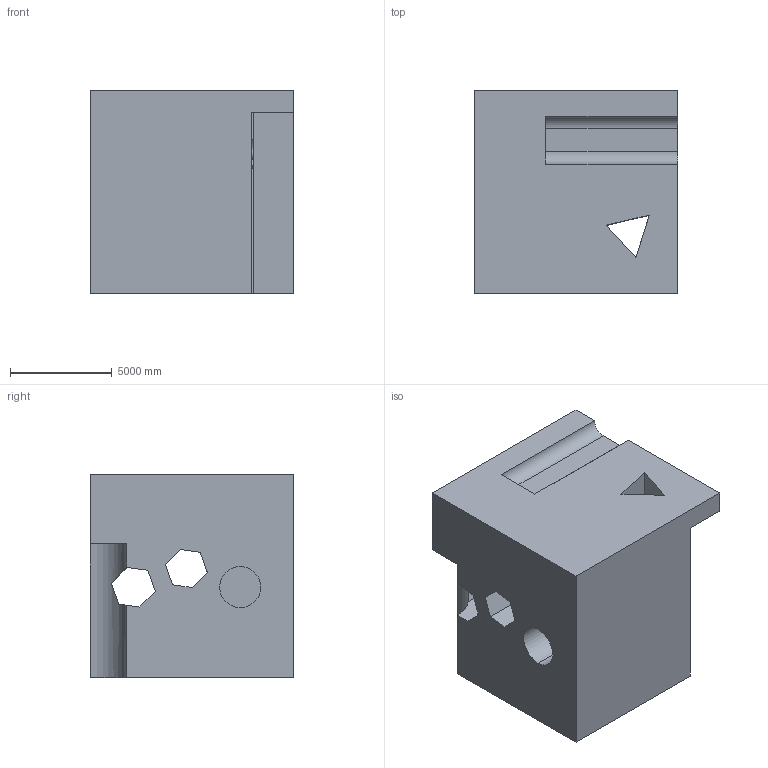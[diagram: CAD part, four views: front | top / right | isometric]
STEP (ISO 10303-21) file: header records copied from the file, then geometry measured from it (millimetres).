
FILE_DESCRIPTION (( 'STEP AP203' ), '1' );
FILE_NAME ('354.STEP', '2022-09-07T15:44:34', ( 'user' ), ( '' ), 'SwSTEP 2.0', 'SolidWorks 2021', '' );
FILE_SCHEMA (( 'CONFIG_CONTROL_DESIGN' ));
Length unit declared in the file: centimetre
Products named in the file (1): 354
Bounding box: 10000 x 10000 x 10000 mm (x, y, z)
Volume: 840912182644.4 mm3; surface area: 800269436.4 mm2
Topology: 1 solids, 1 shells, 38 faces, 110 edges, 73 vertices
Faces by surface type: plane 30, cylinder 8
Entity records: 1335 total; most frequent: CARTESIAN_POINT 237, ORIENTED_EDGE 220, DIRECTION 199, EDGE_CURVE 110, VECTOR 89, LINE 89, VERTEX_POINT 73, AXIS2_PLACEMENT_3D 55
